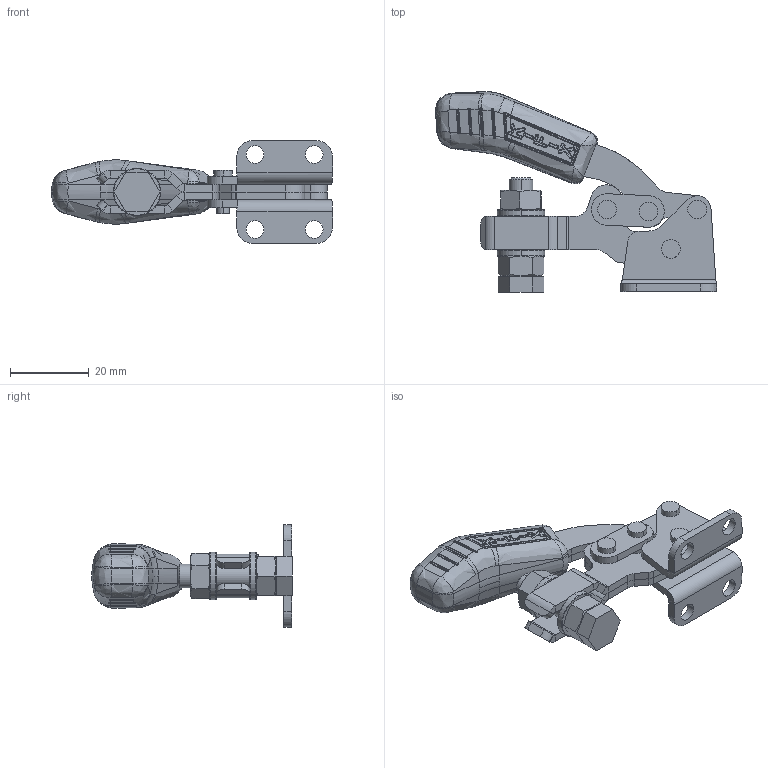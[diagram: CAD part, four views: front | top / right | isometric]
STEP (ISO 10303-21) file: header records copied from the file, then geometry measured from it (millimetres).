
FILE_DESCRIPTION (( 'STEP AP203' ), '1' );
FILE_NAME ('KF-102 D.STEP', '2014-08-15T18:32:27', ( 'Ricardo' ), ( '' ), 'SwSTEP 2.0', 'SolidWorks 2013', '' );
FILE_SCHEMA (( 'CONFIG_CONTROL_DESIGN' ));
Length unit declared in the file: millimetre
Products named in the file (13): 03.13014_Direita; 07.60004; 03.13014_Esquerda; KF-102 D; 01.10221_Direita; 01.10221_Esquerda; 08.10026; 06.50022; 12.50006; 02.12028_Direita; 11.50001; 02.12028_Esquerda; 17.50001
Assembly tree (18 placements, depth 2):
  KF-102 D
    02.12028_Direita
    02.12028_Esquerda
    03.13014_Direita
    03.13014_Esquerda
    01.10221_Direita
    01.10221_Esquerda
    08.10026  x2
    06.50022  x4
    12.50006
    11.50001  x2
    17.50001  x2
    07.60004
Bounding box: 71.27 x 50.88 x 26 mm (x, y, z)
Volume: 14850.6 mm3; surface area: 14595.1 mm2
Topology: 18 solids, 18 shells, 1037 faces, 2568 edges, 1560 vertices
Faces by surface type: cylinder 366, plane 298, bspline 264, cone 54, sphere 52, torus 3
Entity records: 34663 total; most frequent: CARTESIAN_POINT 12699, ORIENTED_EDGE 4776, DIRECTION 3655, EDGE_CURVE 2388, VERTEX_POINT 1456, AXIS2_PLACEMENT_3D 1415, EDGE_LOOP 1016, ADVANCED_FACE 966
